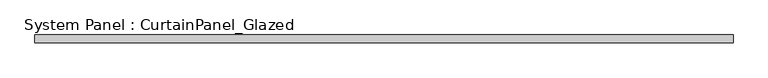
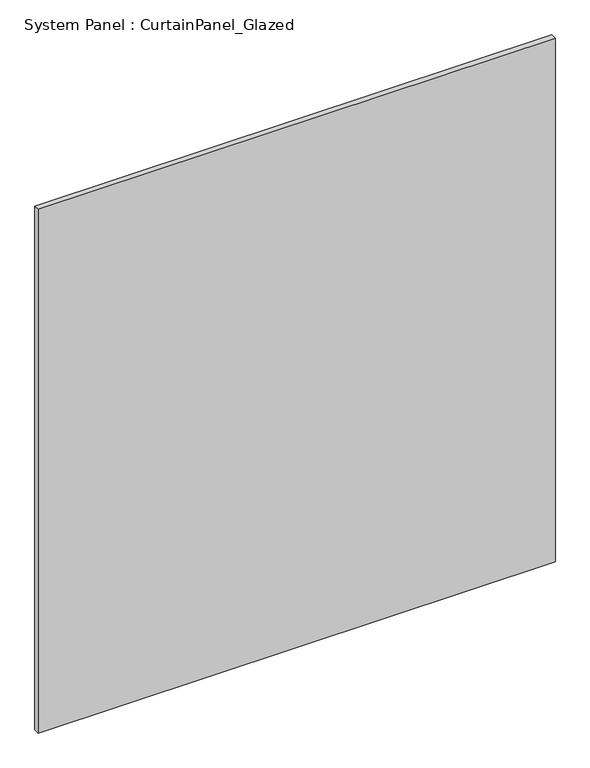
"""IFC4 building model written with IfcOpenShell, lengths in millimetres: plate geometry, System Panel : CurtainPanel_Glazed."""

from ifc_helpers import new_model, si_unit, origin, origin_with_axes, place, context, project, spatial, polyline, outline, extrude, source, transform, mapped, element, save


def system_panel_curtainpanel_glazed_c42a0534(model_context):
    return source(origin(), model_context, "Body", "SweptSolid", [
        extrude(outline(polyline([(1138.6000001, -12.5), (-1138.6000001, -12.5), (-1138.6000001, 12.5), (1138.6000001, 12.5), (1138.6000001, -12.5)])), origin_with_axes(), (0.0, 0.0, 1.0), 2436.7),
    ])


if __name__ == "__main__":
    model = new_model("IFC4")
    model_context = context("Model", 3, world=origin())
    ifc_project = project(units=[si_unit("LENGTHUNIT", "METRE", prefix="MILLI")], contexts=[model_context])
    site = spatial("IfcSite", under=ifc_project)
    building = spatial("IfcBuilding", under=site)
    placement = place(None, origin())
    system_panel_curtainpanel_glazed_shape = system_panel_curtainpanel_glazed_c42a0534(model_context)
    element("IfcPlate", 1, ObjectType="System Panel : CurtainPanel_Glazed", at=placement, inside=building, context=model_context, shape_type="MappedRepresentation", body=[
        mapped(system_panel_curtainpanel_glazed_shape, transform((0.0, 0.0, 0.0), x_axis=(1.0, 0.0, 0.0), y_axis=(0.0, 1.0, 0.0), z_axis=(0.0, 0.0, 1.0))),
    ])
    save(model, "model.ifc")
